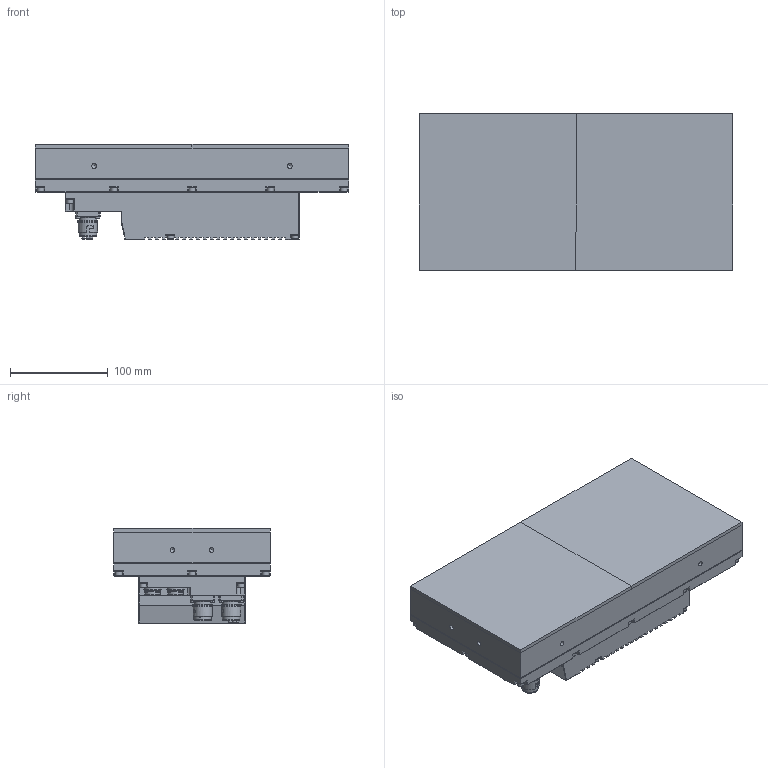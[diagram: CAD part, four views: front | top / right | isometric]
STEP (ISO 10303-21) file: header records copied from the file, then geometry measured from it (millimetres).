
FILE_DESCRIPTION(/* description */ ('','CAx-IF Rec.Pracs.---Representation and Presentation of Product Manufacturing Information (PMI)---4.0---2014-10-13'),/* implementation_level */ '2;1');
FILE_NAME(/* name */ '0000017696_APS4242-1X00-0000_02.stp',/* time_stamp */ '2024-06-07T13:38:34+02:00',/* author */ ('JoergN'),/* organization */ (''),/* preprocessor_version */ 'ST-DEVELOPER v20',/* originating_system */ 'Autodesk Inventor 2024',/* authorisation */ '');
FILE_SCHEMA (('AP242_MANAGED_MODEL_BASED_3D_ENGINEERING_MIM_LF { 1 0 10303 442 1 1 4 }'));
Products named in the file (1): 0000017696_APS4242-1X00-0000
Bounding box: 320 x 160 x 97.3 mm (x, y, z)
Volume: 3550885.9 mm3; surface area: 207332.4 mm2
Topology: 1 solids, 3 shells, 1468 faces, 3678 edges, 2365 vertices
Faces by surface type: plane 966, cylinder 320, cone 105, torus 41, bspline 36
Full cylindrical faces by diameter (mm): 0.7 x16, 1 x2, 1.24 x16, 1.25 x2, 1.5 x5, 1.55 x5, 3.5 x5, 3.7 x5, 4.5 x8, 4.917 x13, 6.3 x4, 7 x18, 8 x19, 8.25 x2, 11.2 x2, 12.5 x1, 14 x2, 16 x2, 16.4 x1, 16.5 x2, 17.95 x2, 18 x2, 18.8 x2, 19.85 x2, 20.6 x4
Entity records: 69160 total; most frequent: CARTESIAN_POINT 21077, DIRECTION 7931, ORIENTED_EDGE 7320, STYLED_ITEM 6215, POLYLINE 4635, EDGE_CURVE 3660, AXIS2_PLACEMENT_3D 2714, LINE 2503
